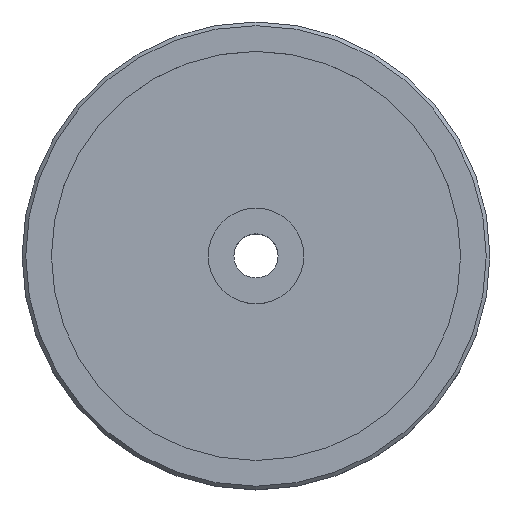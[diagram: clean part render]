
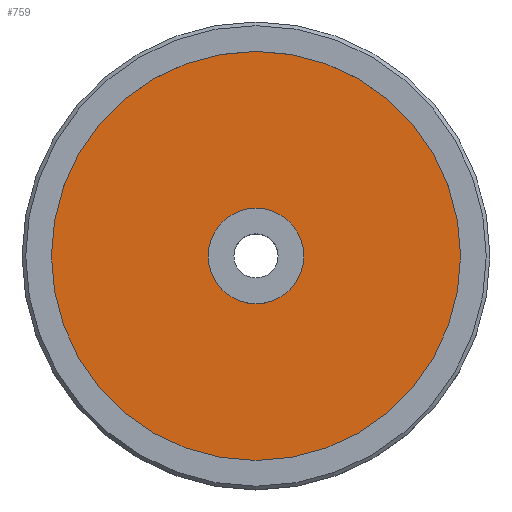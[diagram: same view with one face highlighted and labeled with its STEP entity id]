
A CAD part, top view. The second image highlights one B-rep face of the part: STEP entity #759.
In plain terms, the highlighted planar face has unit normal (0, 0, 1).
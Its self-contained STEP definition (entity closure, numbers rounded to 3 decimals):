
#239 = CYLINDRICAL_SURFACE('',#240,27.831);
#240 = AXIS2_PLACEMENT_3D('',#241,#242,#243);
#241 = CARTESIAN_POINT('',(0.,0.,13.28));
#242 = DIRECTION('',(-0.,-0.,-1.));
#243 = DIRECTION('',(1.,0.,0.));
#289 = EDGE_CURVE('',#290,#290,#292,.T.);
#290 = VERTEX_POINT('',#291);
#291 = CARTESIAN_POINT('',(27.831,0.,13.28));
#292 = SURFACE_CURVE('',#293,(#298,#305),.PCURVE_S1.);
#293 = CIRCLE('',#294,27.831);
#294 = AXIS2_PLACEMENT_3D('',#295,#296,#297);
#295 = CARTESIAN_POINT('',(0.,0.,13.28));
#296 = DIRECTION('',(0.,0.,1.));
#297 = DIRECTION('',(1.,0.,0.));
#298 = PCURVE('',#239,#299);
#299 = DEFINITIONAL_REPRESENTATION('',(#300),#304);
#300 = LINE('',#301,#302);
#301 = CARTESIAN_POINT('',(-0.,0.));
#302 = VECTOR('',#303,1.);
#303 = DIRECTION('',(-1.,0.));
#304 = ( GEOMETRIC_REPRESENTATION_CONTEXT(2) 
PARAMETRIC_REPRESENTATION_CONTEXT() REPRESENTATION_CONTEXT('2D SPACE',''
  ) );
#305 = PCURVE('',#306,#311);
#306 = PLANE('',#307);
#307 = AXIS2_PLACEMENT_3D('',#308,#309,#310);
#308 = CARTESIAN_POINT('',(0.,0.,13.28)
  );
#309 = DIRECTION('',(0.,0.,1.));
#310 = DIRECTION('',(1.,0.,-0.));
#311 = DEFINITIONAL_REPRESENTATION('',(#312),#316);
#312 = CIRCLE('',#313,27.831);
#313 = AXIS2_PLACEMENT_2D('',#314,#315);
#314 = CARTESIAN_POINT('',(0.,0.));
#315 = DIRECTION('',(1.,0.));
#316 = ( GEOMETRIC_REPRESENTATION_CONTEXT(2) 
PARAMETRIC_REPRESENTATION_CONTEXT() REPRESENTATION_CONTEXT('2D SPACE',''
  ) );
#759 = ADVANCED_FACE('',(#760,#763),#306,.T.);
#760 = FACE_BOUND('',#761,.T.);
#761 = EDGE_LOOP('',(#762));
#762 = ORIENTED_EDGE('',*,*,#289,.T.);
#763 = FACE_BOUND('',#764,.T.);
#764 = EDGE_LOOP('',(#765));
#765 = ORIENTED_EDGE('',*,*,#766,.F.);
#766 = EDGE_CURVE('',#767,#767,#769,.T.);
#767 = VERTEX_POINT('',#768);
#768 = CARTESIAN_POINT('',(6.5,0.,13.28));
#769 = SURFACE_CURVE('',#770,(#775,#782),.PCURVE_S1.);
#770 = CIRCLE('',#771,6.5);
#771 = AXIS2_PLACEMENT_3D('',#772,#773,#774);
#772 = CARTESIAN_POINT('',(0.,0.,13.28)
  );
#773 = DIRECTION('',(0.,0.,1.));
#774 = DIRECTION('',(1.,0.,0.));
#775 = PCURVE('',#306,#776);
#776 = DEFINITIONAL_REPRESENTATION('',(#777),#781);
#777 = CIRCLE('',#778,6.5);
#778 = AXIS2_PLACEMENT_2D('',#779,#780);
#779 = CARTESIAN_POINT('',(0.,0.));
#780 = DIRECTION('',(1.,0.));
#781 = ( GEOMETRIC_REPRESENTATION_CONTEXT(2) 
PARAMETRIC_REPRESENTATION_CONTEXT() REPRESENTATION_CONTEXT('2D SPACE',''
  ) );
#782 = PCURVE('',#783,#788);
#783 = CYLINDRICAL_SURFACE('',#784,6.5);
#784 = AXIS2_PLACEMENT_3D('',#785,#786,#787);
#785 = CARTESIAN_POINT('',(0.,0.,13.28)
  );
#786 = DIRECTION('',(-0.,-0.,-1.));
#787 = DIRECTION('',(1.,0.,0.));
#788 = DEFINITIONAL_REPRESENTATION('',(#789),#793);
#789 = LINE('',#790,#791);
#790 = CARTESIAN_POINT('',(-0.,0.));
#791 = VECTOR('',#792,1.);
#792 = DIRECTION('',(-1.,0.));
#793 = ( GEOMETRIC_REPRESENTATION_CONTEXT(2) 
PARAMETRIC_REPRESENTATION_CONTEXT() REPRESENTATION_CONTEXT('2D SPACE',''
  ) );
